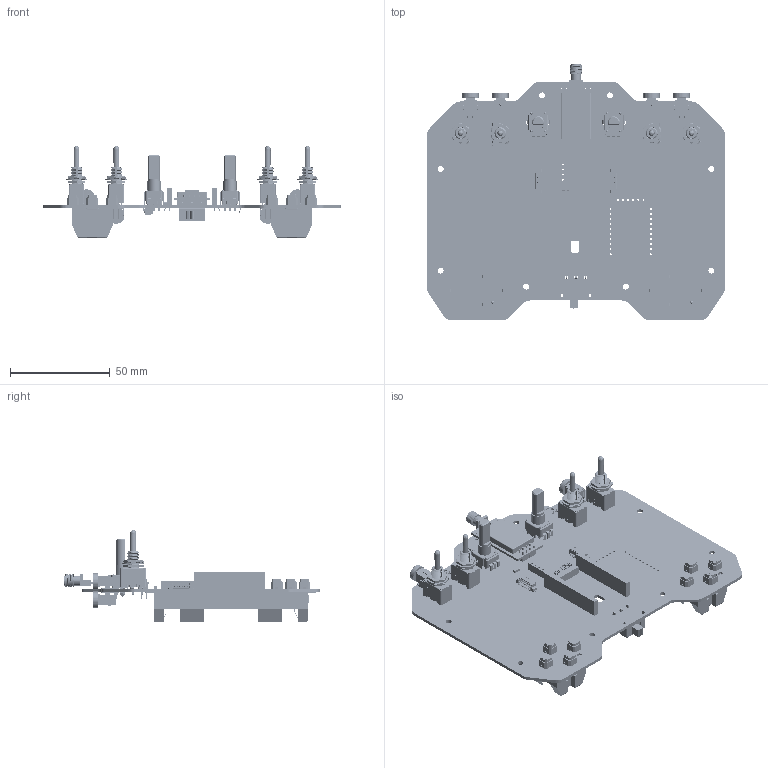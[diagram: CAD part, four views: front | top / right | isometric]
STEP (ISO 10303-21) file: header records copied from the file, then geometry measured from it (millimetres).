
FILE_DESCRIPTION(('Designed by EasyEDA Pro'),'2;1');
FILE_NAME('Open CASCADE Shape Model','2023-08-18T21:23:19',('Author'),( 'Open CASCADE'),'Open CASCADE STEP processor 7.6','Open CASCADE 7.6' ,'Unknown');
FILE_SCHEMA(('AUTOMOTIVE_DESIGN { 1 0 10303 214 1 1 1 1 }'));
Length unit declared in the file: millimetre
Products named in the file (58): PCBModel; COMPOUND; U17; T-Display-S3 AMOLED å¼åæ¿; SW7; SW-TH_SS-12D11G5R; SOLID; U3; mpu-6050; SW8; KEY-SMD_2P-L6.0-W6.0-P6.00; SW9; SW10; SW11; SW12; SW13; SW14; SW15; SW1; RES-ADJ-TH_RK09D1130C4G; SW2; BT1; BATTERY-SMD_18650-1S-L77.1-W20.7-1; BT2; C1; C1206; SW3; SW-TH_MT-0-103-A101-M200-RS; SW4; SW5; SW6; U2; WIRELM-TH_AS01-ML01DP5; CN3; conn-smd_2p-p1.25_x9821wrs-02-9tsn; U15; SW-TH_TM-007-D1-A-03; U12; U13; U14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
Assembly tree (73 placements, depth 4):
  PCBModel
    COMPOUND
    U17
      T-Display-S3 AMOLED å¼åæ¿
        COMPOUND
    SW7
      SW-TH_SS-12D11G5R
        SOLID
        SOLID
    U3
      mpu-6050
        SOLID
    SW8
      KEY-SMD_2P-L6.0-W6.0-P6.00
        SOLID
    SW9
      KEY-SMD_2P-L6.0-W6.0-P6.00
        SOLID
    SW10
      KEY-SMD_2P-L6.0-W6.0-P6.00
        SOLID
    SW11
      KEY-SMD_2P-L6.0-W6.0-P6.00
        SOLID
    SW12
      KEY-SMD_2P-L6.0-W6.0-P6.00
        SOLID
    SW13
      KEY-SMD_2P-L6.0-W6.0-P6.00
        SOLID
    SW14
      KEY-SMD_2P-L6.0-W6.0-P6.00
        SOLID
    SW15
      KEY-SMD_2P-L6.0-W6.0-P6.00
        SOLID
    SW1
      RES-ADJ-TH_RK09D1130C4G
        SOLID
    SW2
      RES-ADJ-TH_RK09D1130C4G
        SOLID
    BT1
      BATTERY-SMD_18650-1S-L77.1-W20.7-1
        COMPOUND
    BT2
      BATTERY-SMD_18650-1S-L77.1-W20.7-1
        COMPOUND
    C1
      C1206
        SOLID
    SW3
      SW-TH_MT-0-103-A101-M200-RS
        COMPOUND
        SOLID
        SOLID
        SOLID
    SW4
      SW-TH_MT-0-103-A101-M200-RS
        COMPOUND
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Bounding box: 149.97 x 128.96 x 46.16 mm (x, y, z)
Volume: 53774.7 mm3; surface area: 69185.7 mm2
Topology: 174 solids, 174 shells, 14209 faces, 38653 edges, 25594 vertices
Faces by surface type: plane 9718, bspline 2797, cylinder 1186, extrusion 292, cone 170, sphere 46
Full cylindrical faces by diameter (mm): 1 x58, 1.1 x14, 1.2 x4, 1.3 x16, 1.5 x4, 1.8 x5, 2.4 x2, 3 x8
Entity records: 243768 total; most frequent: CARTESIAN_POINT 63418, ORIENTED_EDGE 29658, DIRECTION 22436, EDGE_CURVE 14829, VECTOR 11058, LINE 10985, VERTEX_POINT 9824, FACE_BOUND 6153
